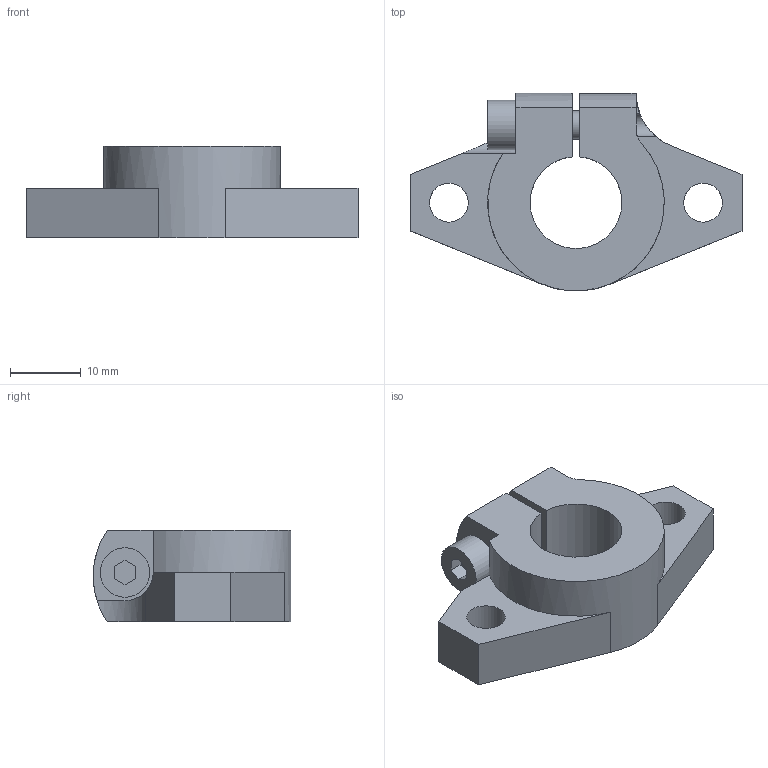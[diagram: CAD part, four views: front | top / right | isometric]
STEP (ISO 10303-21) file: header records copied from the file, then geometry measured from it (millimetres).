
FILE_DESCRIPTION(('STEP AP203'),'1');
FILE_NAME('//192.168.1.1/share/s-4 技術開発/s-4-14_個人別フォルダ/橋詰/09_CAD_DATA/3D/HP用/3Ｄモデル/SNF/SNF-13A.step','2021-09-16T23:47:30',(' '),(' '),'Spatial InterOp 3D',' ',' ');
FILE_SCHEMA(('CONFIG_CONTROL_DESIGN'));
Length unit declared in the file: millimetre
Products named in the file (2): 1; 2
Bounding box: 47 x 27.97 x 13 mm (x, y, z)
Volume: 7371.7 mm3; surface area: 4251 mm2
Topology: 2 solids, 2 shells, 43 faces, 114 edges, 76 vertices
Faces by surface type: plane 27, cylinder 15, cone 1
Full cylindrical faces by diameter (mm): 3.3 x1, 4 x2, 4.5 x1, 5.5 x2, 7 x1
Entity records: 1444 total; most frequent: CARTESIAN_POINT 307, DIRECTION 218, ORIENTED_EDGE 204, EDGE_CURVE 102, AXIS2_PLACEMENT_3D 77, VERTEX_POINT 72, LINE 64, VECTOR 64
